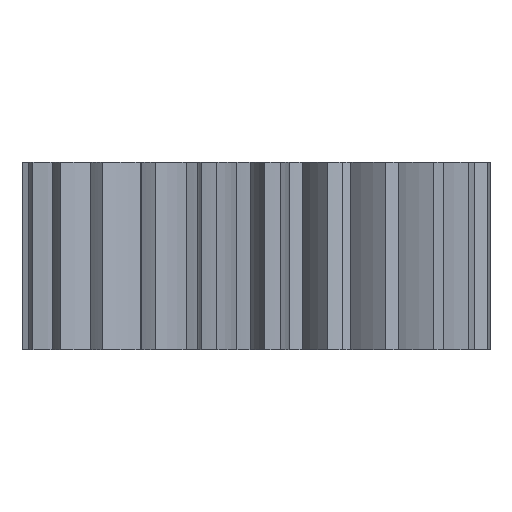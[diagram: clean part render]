
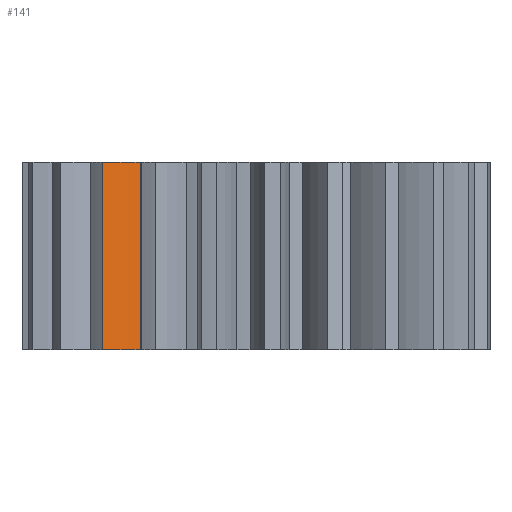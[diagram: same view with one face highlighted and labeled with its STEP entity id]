
A CAD part, left-side view. The second image highlights one B-rep face of the part: STEP entity #141.
In plain terms, the highlighted cylindrical face has radius 17.771 mm (diameter 35.542 mm), a partial arc.
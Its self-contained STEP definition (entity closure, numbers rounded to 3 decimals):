
#141=ADVANCED_FACE('',(#769),#771,.T.);
#769=FACE_BOUND('',#770,.T.);
#770=EDGE_LOOP('',(#1357,#1358,#1359,#1360));
#771=CYLINDRICAL_SURFACE('',#772,17.771);
#772=AXIS2_PLACEMENT_3D('',#773,#774,#775);
#773=CARTESIAN_POINT('',(-2.624,23.692,0.));
#774=DIRECTION('',(0.,0.,1.));
#775=DIRECTION('',(-0.772,-0.636,0.));
#1357=ORIENTED_EDGE('',*,*,#1491,.F.);
#1358=ORIENTED_EDGE('',*,*,#1664,.F.);
#1359=ORIENTED_EDGE('',*,*,#1473,.F.);
#1360=ORIENTED_EDGE('',*,*,#1663,.T.);
#1473=EDGE_CURVE('',#1838,#1840,#1841,.T.);
#1491=EDGE_CURVE('',#1874,#1876,#1877,.T.);
#1663=EDGE_CURVE('',#1838,#1876,#2133,.T.);
#1664=EDGE_CURVE('',#1840,#1874,#2134,.T.);
#1838=VERTEX_POINT('',#2557);
#1840=VERTEX_POINT('',#2562);
#1841=CIRCLE('',#2563,17.771);
#1874=VERTEX_POINT('',#2646);
#1876=VERTEX_POINT('',#2651);
#1877=CIRCLE('',#2652,17.771);
#2133=LINE('',#3337,#3338);
#2134=LINE('',#3340,#3341);
#2557=CARTESIAN_POINT('',(-16.335,12.387,0.));
#2562=CARTESIAN_POINT('',(-18.843,16.43,0.));
#2563=AXIS2_PLACEMENT_3D('',#2564,#2565,#2566);
#2564=CARTESIAN_POINT('',(-2.624,23.692,0.));
#2565=DIRECTION('',(0.,0.,-1.));
#2566=DIRECTION('',(-0.772,-0.636,0.));
#2646=CARTESIAN_POINT('',(-18.843,16.43,20.));
#2651=CARTESIAN_POINT('',(-16.335,12.387,20.));
#2652=AXIS2_PLACEMENT_3D('',#2653,#2654,#2655);
#2653=CARTESIAN_POINT('',(-2.624,23.692,20.));
#2654=DIRECTION('',(0.,0.,1.));
#2655=DIRECTION('',(-0.913,-0.409,0.));
#3337=CARTESIAN_POINT('',(-16.335,12.387,0.));
#3338=VECTOR('',#3339,1.);
#3339=DIRECTION('',(0.,0.,1.));
#3340=CARTESIAN_POINT('',(-18.843,16.43,0.));
#3341=VECTOR('',#3342,1.);
#3342=DIRECTION('',(0.,0.,1.));
